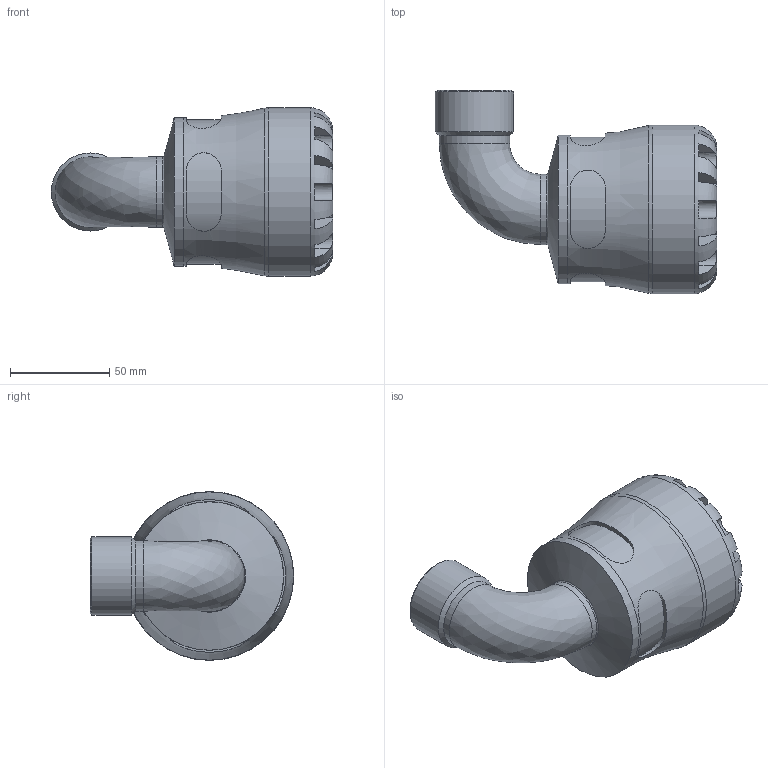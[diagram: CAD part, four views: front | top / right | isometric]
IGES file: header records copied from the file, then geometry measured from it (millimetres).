
Global section: file name: 107600050010_197600050010.ipt; native system: Autodesk Inventor 2015; preprocessor: unknown; author: KIM; date: 20170518.120402; units: millimetre
Bounding box: 141.69 x 102.5 x 85 mm (x, y, z)
Volume: 283493.7 mm3; surface area: 60829.5 mm2
Topology: 1 solids, 1 shells, 108 faces, 277 edges, 176 vertices
Faces by surface type: plane 60, revolution 28, cylinder 17, cone 3
Full cylindrical faces by diameter (mm): 35.44 x2, 39.378 x1, 74.8 x1, 85 x1
